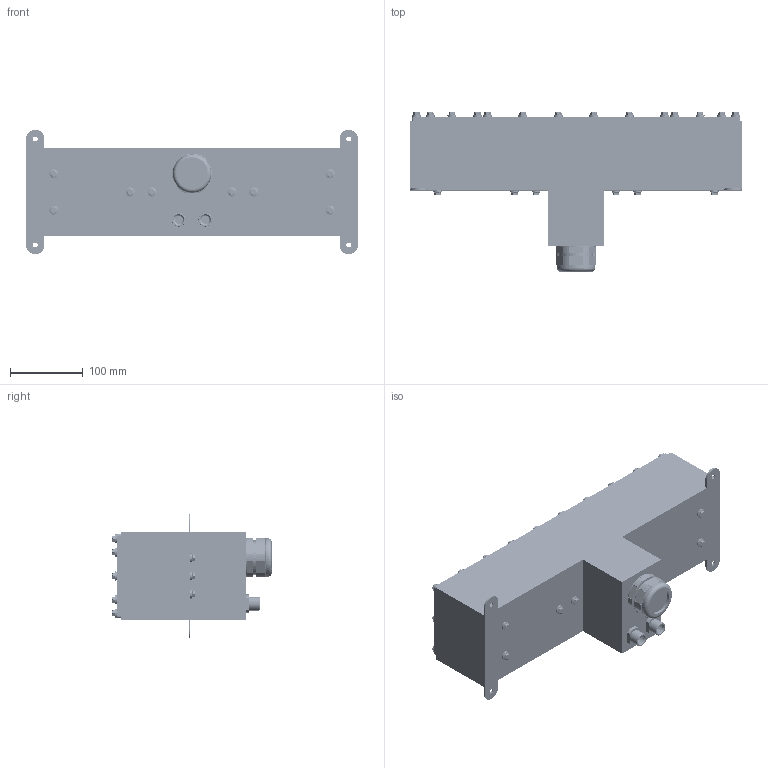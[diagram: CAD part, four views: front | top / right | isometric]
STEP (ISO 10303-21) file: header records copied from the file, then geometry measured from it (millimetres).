
FILE_DESCRIPTION (( 'STEP AP203' ), '1' );
FILE_NAME ('LL-DW-M.STEP', '2022-02-28T21:35:52', ( '' ), ( '' ), 'SwSTEP 2.0', 'SolidWorks 2021', '' );
FILE_SCHEMA (( 'CONFIG_CONTROL_DESIGN' ));
Length unit declared in the file: inch
Products named in the file (30): 400604; 800020; 800004; PG36-I01; PG36-S02; 91292A108_91292A108; SP-M5-2; PHOXI 3D SCANNER M; 8674T55_8674T55; 400101; 200794; 800023; 500143_8477K33; 201233; 91292A116; LL-DW-M; PG36-01-01-02-01; 800022; 91292A048_91292A048; 200309; 201234; 200791; PG36-N01; 200792; 91292A117; 201235; 800005; 400102; PG36-B01; 93625A200
Assembly tree (120 placements, depth 3):
  LL-DW-M
    201233
      201234
      SP-M5-2  x22
    200791
      200792
      SP-M5-2  x4
    200309  x2
    201235
    200794  x4
    400101  x2
    400604
    500143_8477K33  x2
    PG36-01-01-02-01
      PG36-B01
      PG36-I01
      PG36-S02
      PG36-N01
    800004  x30
      800005
      400102
    800022  x4
    800023  x8
      800020
      400102
    8674T55_8674T55  x2
    93625A200  x8
    91292A048_91292A048  x4
    91292A108_91292A108  x2
    91292A116  x2
    91292A117  x8
    PHOXI 3D SCANNER M
Bounding box: 457.2 x 219.44 x 171.45 mm (x, y, z)
Volume: 1186503.5 mm3; surface area: 1042070.2 mm2
Topology: 167 solids, 167 shells, 9185 faces, 24362 edges, 15857 vertices
Faces by surface type: cylinder 4535, plane 3227, cone 1122, bspline 244, sphere 32, torus 25
Entity records: 122095 total; most frequent: CARTESIAN_POINT 51849, ORIENTED_EDGE 14088, DIRECTION 12884, EDGE_CURVE 7044, AXIS2_PLACEMENT_3D 4617, VERTEX_POINT 4562, VECTOR 3650, LINE 3650
